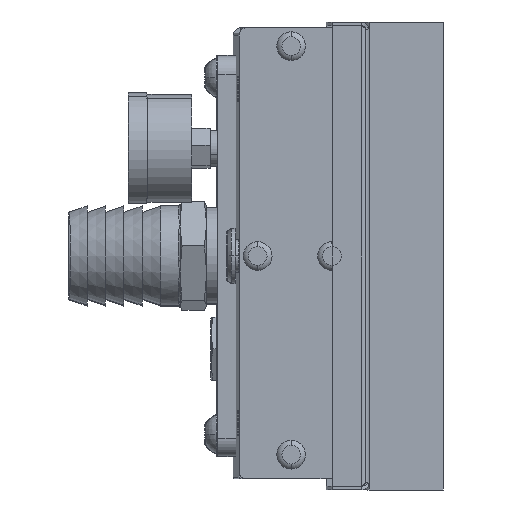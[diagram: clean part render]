
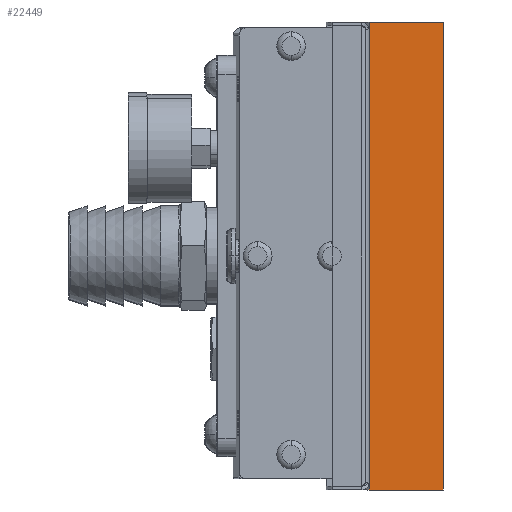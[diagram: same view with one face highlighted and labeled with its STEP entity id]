
A CAD part, left-side view. The second image highlights one B-rep face of the part: STEP entity #22449.
In plain terms, the highlighted planar face has unit normal (-1, -0.003, 0).
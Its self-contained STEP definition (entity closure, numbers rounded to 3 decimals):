
#5295 = PLANE ( 'NONE',  #30415 ) ;
#5308 = CARTESIAN_POINT ( 'NONE',  ( -241.825, -133.321, -63. ) ) ;
#5309 = DIRECTION ( 'NONE',  ( 1., 0.003, 0. ) ) ;
#5310 = DIRECTION ( 'NONE',  ( -0.003, 1., 0. ) ) ;
#6283 = CARTESIAN_POINT ( 'NONE',  ( -241.877, -113.321, -61. ) ) ;
#6290 = CARTESIAN_POINT ( 'NONE',  ( -241.877, -113.321, 61. ) ) ;
#8772 = EDGE_CURVE ( 'NONE', #33109, #33116, #19804, .T. ) ;
#11631 = CARTESIAN_POINT ( 'NONE',  ( -241.877, -113.321, -63. ) ) ;
#11642 = DIRECTION ( 'NONE',  ( 0., 0., -1. ) ) ;
#11668 = CARTESIAN_POINT ( 'NONE',  ( -241.877, -113.321, -63. ) ) ;
#11678 = DIRECTION ( 'NONE',  ( 0., 0., -1. ) ) ;
#11682 = CARTESIAN_POINT ( 'NONE',  ( -241.825, -133.321, -63. ) ) ;
#11685 = DIRECTION ( 'NONE',  ( -0.003, 1., 0. ) ) ;
#11771 = FACE_OUTER_BOUND ( 'NONE', #26102, .T. ) ;
#12701 = CARTESIAN_POINT ( 'NONE',  ( -241.877, -113.321, -61.99 ) ) ;
#12717 = DIRECTION ( 'NONE',  ( 0., 0., 1. ) ) ;
#13657 = EDGE_CURVE ( 'NONE', #14500, #33116, #20655, .T. ) ;
#13663 = EDGE_CURVE ( 'NONE', #33109, #14472, #20664, .T. ) ;
#13664 = EDGE_CURVE ( 'NONE', #14470, #14472, #20667, .T. ) ;
#13687 = EDGE_CURVE ( 'NONE', #14483, #14500, #20705, .T. ) ;
#13688 = EDGE_CURVE ( 'NONE', #14483, #14470, #20707, .T. ) ;
#14470 = VERTEX_POINT ( 'NONE', #26773 ) ;
#14472 = VERTEX_POINT ( 'NONE', #26778 ) ;
#14483 = VERTEX_POINT ( 'NONE', #26789 ) ;
#14500 = VERTEX_POINT ( 'NONE', #26806 ) ;
#19804 = LINE ( 'NONE', #12701, #19809 ) ;
#19809 = VECTOR ( 'NONE', #12717, 1000. ) ;
#20655 = LINE ( 'NONE', #11631, #20659 ) ;
#20659 = VECTOR ( 'NONE', #11642, 1000. ) ;
#20664 = LINE ( 'NONE', #11668, #20668 ) ;
#20667 = LINE ( 'NONE', #11682, #20670 ) ;
#20668 = VECTOR ( 'NONE', #11678, 1000. ) ;
#20670 = VECTOR ( 'NONE', #11685, 1000. ) ;
#20705 = LINE ( 'NONE', #26461, #20708 ) ;
#20707 = LINE ( 'NONE', #26463, #20710 ) ;
#20708 = VECTOR ( 'NONE', #26462, 1000. ) ;
#20710 = VECTOR ( 'NONE', #26464, 1000. ) ;
#22449 = ADVANCED_FACE ( 'NONE', ( #11771 ), #5295, .F. ) ;
#26102 = EDGE_LOOP ( 'NONE', ( #33333, #29266, #33329, #33325, #33375, #33326 ) ) ;
#26461 = CARTESIAN_POINT ( 'NONE',  ( -241.825, -133.321, 63. ) ) ;
#26462 = DIRECTION ( 'NONE',  ( -0.003, 1., 0. ) ) ;
#26463 = CARTESIAN_POINT ( 'NONE',  ( -241.825, -133.321, -63. ) ) ;
#26464 = DIRECTION ( 'NONE',  ( 0., 0., -1. ) ) ;
#26773 = CARTESIAN_POINT ( 'NONE',  ( -241.825, -133.321, -63. ) ) ;
#26778 = CARTESIAN_POINT ( 'NONE',  ( -241.877, -113.321, -63. ) ) ;
#26789 = CARTESIAN_POINT ( 'NONE',  ( -241.825, -133.321, 63. ) ) ;
#26806 = CARTESIAN_POINT ( 'NONE',  ( -241.877, -113.321, 63. ) ) ;
#29266 = ORIENTED_EDGE ( 'NONE', *, *, #8772, .F. ) ;
#30415 = AXIS2_PLACEMENT_3D ( 'NONE', #5308, #5309, #5310 ) ;
#33109 = VERTEX_POINT ( 'NONE', #6283 ) ;
#33116 = VERTEX_POINT ( 'NONE', #6290 ) ;
#33325 = ORIENTED_EDGE ( 'NONE', *, *, #13664, .F. ) ;
#33326 = ORIENTED_EDGE ( 'NONE', *, *, #13687, .T. ) ;
#33329 = ORIENTED_EDGE ( 'NONE', *, *, #13663, .T. ) ;
#33333 = ORIENTED_EDGE ( 'NONE', *, *, #13657, .T. ) ;
#33375 = ORIENTED_EDGE ( 'NONE', *, *, #13688, .F. ) ;
